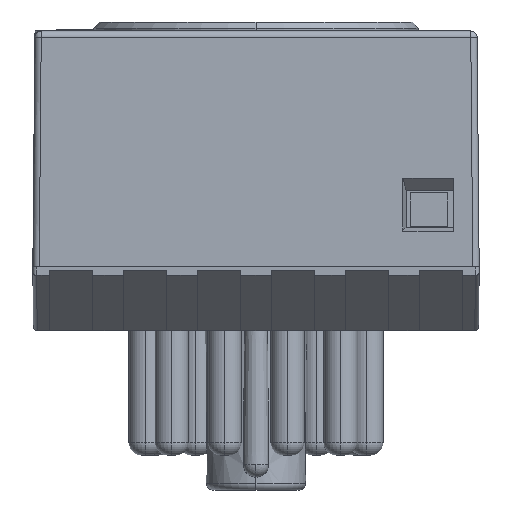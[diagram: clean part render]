
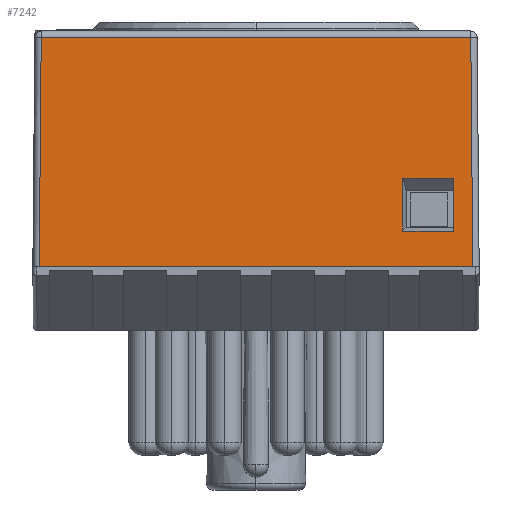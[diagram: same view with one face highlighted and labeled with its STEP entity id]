
A CAD part, front view. The second image highlights one B-rep face of the part: STEP entity #7242.
In plain terms, the highlighted planar face has unit normal (0, -1, 0.009).
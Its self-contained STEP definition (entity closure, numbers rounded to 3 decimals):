
#224 = DIRECTION ( 'NONE',  ( 1., 0., 0. ) ) ;
#421 = EDGE_CURVE ( 'NONE', #26042, #26189, #3406, .T. ) ;
#922 = CARTESIAN_POINT ( 'NONE',  ( 35., 0., 17.5 ) ) ;
#2076 = EDGE_CURVE ( 'NONE', #9335, #26189, #31138, .T. ) ;
#2660 = VECTOR ( 'NONE', #14852, 1000. ) ;
#3406 = LINE ( 'NONE', #14934, #6718 ) ;
#3531 = FACE_BOUND ( 'NONE', #9876, .T. ) ;
#3691 = LINE ( 'NONE', #11870, #2660 ) ;
#4160 = CARTESIAN_POINT ( 'NONE',  ( 0.5, 0., 17.5 ) ) ;
#4420 = EDGE_CURVE ( 'NONE', #27013, #21260, #10885, .T. ) ;
#4603 = VECTOR ( 'NONE', #18886, 1000. ) ;
#4886 = ORIENTED_EDGE ( 'NONE', *, *, #13165, .T. ) ;
#5269 = CARTESIAN_POINT ( 'NONE',  ( 0.503, 0.003, 17.801 ) ) ;
#6145 = CARTESIAN_POINT ( 'NONE',  ( 29., 0., 17.514 ) ) ;
#6410 = CARTESIAN_POINT ( 'NONE',  ( 34.5, 0., 17.5 ) ) ;
#6525 = ORIENTED_EDGE ( 'NONE', *, *, #17255, .F. ) ;
#6718 = VECTOR ( 'NONE', #22960, 1000. ) ;
#7242 = ADVANCED_FACE ( 'NONE', ( #10035, #3531 ), #23457, .T. ) ;
#9335 = VERTEX_POINT ( 'NONE', #15552 ) ;
#9574 = VECTOR ( 'NONE', #20090, 1000. ) ;
#9876 = EDGE_LOOP ( 'NONE', ( #26229, #22261, #32716, #23070 ) ) ;
#10012 = AXIS2_PLACEMENT_3D ( 'NONE', #922, #32429, #32604 ) ;
#10035 = FACE_OUTER_BOUND ( 'NONE', #24499, .T. ) ;
#10116 = CARTESIAN_POINT ( 'NONE',  ( 34.343, 0.157, 35.504 ) ) ;
#10885 = LINE ( 'NONE', #5269, #4603 ) ;
#11870 = CARTESIAN_POINT ( 'NONE',  ( 0.661, 0.157, 35.504 ) ) ;
#12307 = VERTEX_POINT ( 'NONE', #6410 ) ;
#12917 = EDGE_CURVE ( 'NONE', #34335, #9335, #29282, .T. ) ;
#13165 = EDGE_CURVE ( 'NONE', #20515, #27013, #3691, .T. ) ;
#13976 = CARTESIAN_POINT ( 'NONE',  ( 34.5, 0., 17.496 ) ) ;
#14852 = DIRECTION ( 'NONE',  ( -1., 0., 0. ) ) ;
#14934 = CARTESIAN_POINT ( 'NONE',  ( 33., 0., 17.5 ) ) ;
#15278 = VECTOR ( 'NONE', #26252, 1000. ) ;
#15552 = CARTESIAN_POINT ( 'NONE',  ( 29.007, 0.024, 20.307 ) ) ;
#17255 = EDGE_CURVE ( 'NONE', #12307, #21260, #23232, .T. ) ;
#18637 = CARTESIAN_POINT ( 'NONE',  ( 0.657, 0.157, 35.504 ) ) ;
#18886 = DIRECTION ( 'NONE',  ( -0.009, -0.009, -1. ) ) ;
#19387 = LINE ( 'NONE', #13976, #20784 ) ;
#20090 = DIRECTION ( 'NONE',  ( 1., 0., 0. ) ) ;
#20138 = ORIENTED_EDGE ( 'NONE', *, *, #4420, .T. ) ;
#20515 = VERTEX_POINT ( 'NONE', #10116 ) ;
#20784 = VECTOR ( 'NONE', #22026, 1000. ) ;
#21260 = VERTEX_POINT ( 'NONE', #4160 ) ;
#22026 = DIRECTION ( 'NONE',  ( -0.009, 0.009, 1. ) ) ;
#22261 = ORIENTED_EDGE ( 'NONE', *, *, #22502, .T. ) ;
#22502 = EDGE_CURVE ( 'NONE', #34335, #26042, #32068, .T. ) ;
#22745 = CARTESIAN_POINT ( 'NONE',  ( 29., 0.024, 20.307 ) ) ;
#22960 = DIRECTION ( 'NONE',  ( 0., -0.009, -1. ) ) ;
#23070 = ORIENTED_EDGE ( 'NONE', *, *, #2076, .F. ) ;
#23232 = LINE ( 'NONE', #31856, #15278 ) ;
#23457 = PLANE ( 'NONE',  #10012 ) ;
#24499 = EDGE_LOOP ( 'NONE', ( #27306, #4886, #20138, #6525 ) ) ;
#25219 = VECTOR ( 'NONE', #25929, 1000. ) ;
#25929 = DIRECTION ( 'NONE',  ( -0.002, -0.009, -1. ) ) ;
#26042 = VERTEX_POINT ( 'NONE', #35674 ) ;
#26189 = VERTEX_POINT ( 'NONE', #32847 ) ;
#26229 = ORIENTED_EDGE ( 'NONE', *, *, #12917, .F. ) ;
#26252 = DIRECTION ( 'NONE',  ( -1., 0., 0. ) ) ;
#27013 = VERTEX_POINT ( 'NONE', #18637 ) ;
#27287 = CARTESIAN_POINT ( 'NONE',  ( 29.016, 0.061, 24.439 ) ) ;
#27306 = ORIENTED_EDGE ( 'NONE', *, *, #32286, .T. ) ;
#29282 = LINE ( 'NONE', #6145, #25219 ) ;
#31138 = LINE ( 'NONE', #22745, #36402 ) ;
#31856 = CARTESIAN_POINT ( 'NONE',  ( 35., 0., 17.5 ) ) ;
#32068 = LINE ( 'NONE', #34683, #9574 ) ;
#32286 = EDGE_CURVE ( 'NONE', #12307, #20515, #19387, .T. ) ;
#32429 = DIRECTION ( 'NONE',  ( 0., -1., 0.009 ) ) ;
#32604 = DIRECTION ( 'NONE',  ( 0., -0.009, -1. ) ) ;
#32716 = ORIENTED_EDGE ( 'NONE', *, *, #421, .T. ) ;
#32847 = CARTESIAN_POINT ( 'NONE',  ( 33., 0.024, 20.307 ) ) ;
#34335 = VERTEX_POINT ( 'NONE', #27287 ) ;
#34683 = CARTESIAN_POINT ( 'NONE',  ( 35., 0.061, 24.439 ) ) ;
#35674 = CARTESIAN_POINT ( 'NONE',  ( 33., 0.061, 24.439 ) ) ;
#36402 = VECTOR ( 'NONE', #224, 1000. ) ;
